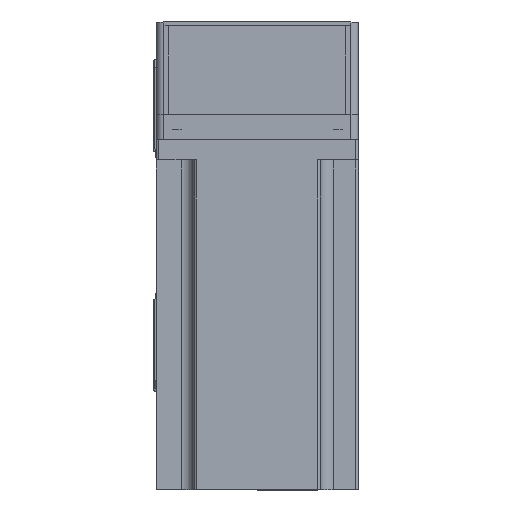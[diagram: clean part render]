
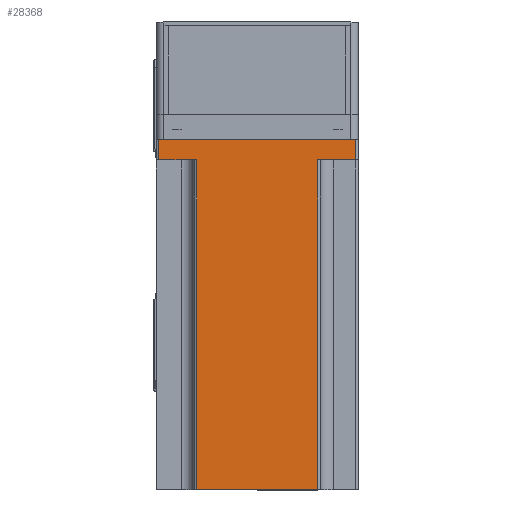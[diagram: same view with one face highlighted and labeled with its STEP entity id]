
A CAD part, top view. The second image highlights one B-rep face of the part: STEP entity #28368.
In plain terms, the highlighted planar face has unit normal (0, 0, 1) as drawn and (0, 1, 0) by its records, which use the part's own axes.
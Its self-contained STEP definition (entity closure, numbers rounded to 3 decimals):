
#780 = VECTOR ( 'NONE', #29160, 1000. ) ;
#2305 = VECTOR ( 'NONE', #22455, 1000. ) ;
#2455 = VERTEX_POINT ( 'NONE', #13798 ) ;
#2885 = CARTESIAN_POINT ( 'NONE',  ( 39., 40., 138.3 ) ) ;
#3747 = CARTESIAN_POINT ( 'NONE',  ( 24., 40., 8. ) ) ;
#4244 = EDGE_CURVE ( 'NONE', #42117, #21692, #8333, .T. ) ;
#5713 = DIRECTION ( 'NONE',  ( -1., 0., 0. ) ) ;
#6817 = DIRECTION ( 'NONE',  ( 1., 0., 0. ) ) ;
#8002 = VERTEX_POINT ( 'NONE', #3747 ) ;
#8322 = LINE ( 'NONE', #34378, #26251 ) ;
#8333 = LINE ( 'NONE', #31911, #26268 ) ;
#9839 = CARTESIAN_POINT ( 'NONE',  ( 39., 40., 0. ) ) ;
#12695 = CARTESIAN_POINT ( 'NONE',  ( 25., 40., 8. ) ) ;
#12754 = CARTESIAN_POINT ( 'NONE',  ( 40., 40., 138.3 ) ) ;
#13037 = LINE ( 'NONE', #12695, #32160 ) ;
#13798 = CARTESIAN_POINT ( 'NONE',  ( 24., 40., 138.3 ) ) ;
#14248 = ORIENTED_EDGE ( 'NONE', *, *, #38000, .F. ) ;
#15247 = ORIENTED_EDGE ( 'NONE', *, *, #4244, .T. ) ;
#15964 = FACE_OUTER_BOUND ( 'NONE', #42057, .T. ) ;
#16354 = DIRECTION ( 'NONE',  ( 1., 0., 0. ) ) ;
#17483 = LINE ( 'NONE', #42617, #44802 ) ;
#18446 = LINE ( 'NONE', #30226, #26810 ) ;
#19847 = PLANE ( 'NONE',  #21383 ) ;
#20129 = VERTEX_POINT ( 'NONE', #25686 ) ;
#20193 = LINE ( 'NONE', #43814, #2305 ) ;
#20768 = ORIENTED_EDGE ( 'NONE', *, *, #29319, .T. ) ;
#21239 = DIRECTION ( 'NONE',  ( 0., 0., -1. ) ) ;
#21383 = AXIS2_PLACEMENT_3D ( 'NONE', #12754, #37819, #16354 ) ;
#21538 = EDGE_CURVE ( 'NONE', #20129, #24334, #42690, .T. ) ;
#21692 = VERTEX_POINT ( 'NONE', #43095 ) ;
#22455 = DIRECTION ( 'NONE',  ( 0., 0., 1. ) ) ;
#23546 = VERTEX_POINT ( 'NONE', #24999 ) ;
#23703 = VECTOR ( 'NONE', #45585, 1000. ) ;
#24334 = VERTEX_POINT ( 'NONE', #9839 ) ;
#24464 = CARTESIAN_POINT ( 'NONE',  ( -39., 40., 8. ) ) ;
#24828 = EDGE_CURVE ( 'NONE', #24334, #27703, #8322, .T. ) ;
#24999 = CARTESIAN_POINT ( 'NONE',  ( -24., 40., 138.3 ) ) ;
#25333 = ORIENTED_EDGE ( 'NONE', *, *, #24828, .T. ) ;
#25546 = CARTESIAN_POINT ( 'NONE',  ( 40., 40., 138.3 ) ) ;
#25686 = CARTESIAN_POINT ( 'NONE',  ( 39., 40., 8. ) ) ;
#26251 = VECTOR ( 'NONE', #41515, 1000. ) ;
#26268 = VECTOR ( 'NONE', #6817, 1000. ) ;
#26810 = VECTOR ( 'NONE', #44478, 1000. ) ;
#27703 = VERTEX_POINT ( 'NONE', #36640 ) ;
#28368 = ADVANCED_FACE ( 'NONE', ( #15964 ), #19847, .F. ) ;
#29160 = DIRECTION ( 'NONE',  ( -1., 0., 0. ) ) ;
#29288 = LINE ( 'NONE', #25546, #780 ) ;
#29319 = EDGE_CURVE ( 'NONE', #2455, #8002, #17483, .T. ) ;
#29829 = ORIENTED_EDGE ( 'NONE', *, *, #21538, .T. ) ;
#30226 = CARTESIAN_POINT ( 'NONE',  ( -39., 40., 138.3 ) ) ;
#31911 = CARTESIAN_POINT ( 'NONE',  ( -25., 40., 8. ) ) ;
#32160 = VECTOR ( 'NONE', #5713, 1000. ) ;
#34378 = CARTESIAN_POINT ( 'NONE',  ( 40., 40., 0. ) ) ;
#36305 = ORIENTED_EDGE ( 'NONE', *, *, #40143, .T. ) ;
#36640 = CARTESIAN_POINT ( 'NONE',  ( -39., 40., 0. ) ) ;
#37795 = EDGE_CURVE ( 'NONE', #20129, #8002, #13037, .T. ) ;
#37819 = DIRECTION ( 'NONE',  ( 0., -1., 0. ) ) ;
#38000 = EDGE_CURVE ( 'NONE', #2455, #23546, #29288, .T. ) ;
#40143 = EDGE_CURVE ( 'NONE', #21692, #23546, #20193, .T. ) ;
#41515 = DIRECTION ( 'NONE',  ( -1., 0., 0. ) ) ;
#42057 = EDGE_LOOP ( 'NONE', ( #15247, #36305, #14248, #20768, #45527, #29829, #25333, #45839 ) ) ;
#42117 = VERTEX_POINT ( 'NONE', #24464 ) ;
#42617 = CARTESIAN_POINT ( 'NONE',  ( 24., 40., 138.3 ) ) ;
#42690 = LINE ( 'NONE', #2885, #23703 ) ;
#43095 = CARTESIAN_POINT ( 'NONE',  ( -24., 40., 8. ) ) ;
#43665 = EDGE_CURVE ( 'NONE', #27703, #42117, #18446, .T. ) ;
#43814 = CARTESIAN_POINT ( 'NONE',  ( -24., 40., 138.3 ) ) ;
#44478 = DIRECTION ( 'NONE',  ( 0., 0., 1. ) ) ;
#44802 = VECTOR ( 'NONE', #21239, 1000. ) ;
#45527 = ORIENTED_EDGE ( 'NONE', *, *, #37795, .F. ) ;
#45585 = DIRECTION ( 'NONE',  ( 0., 0., -1. ) ) ;
#45839 = ORIENTED_EDGE ( 'NONE', *, *, #43665, .T. ) ;
